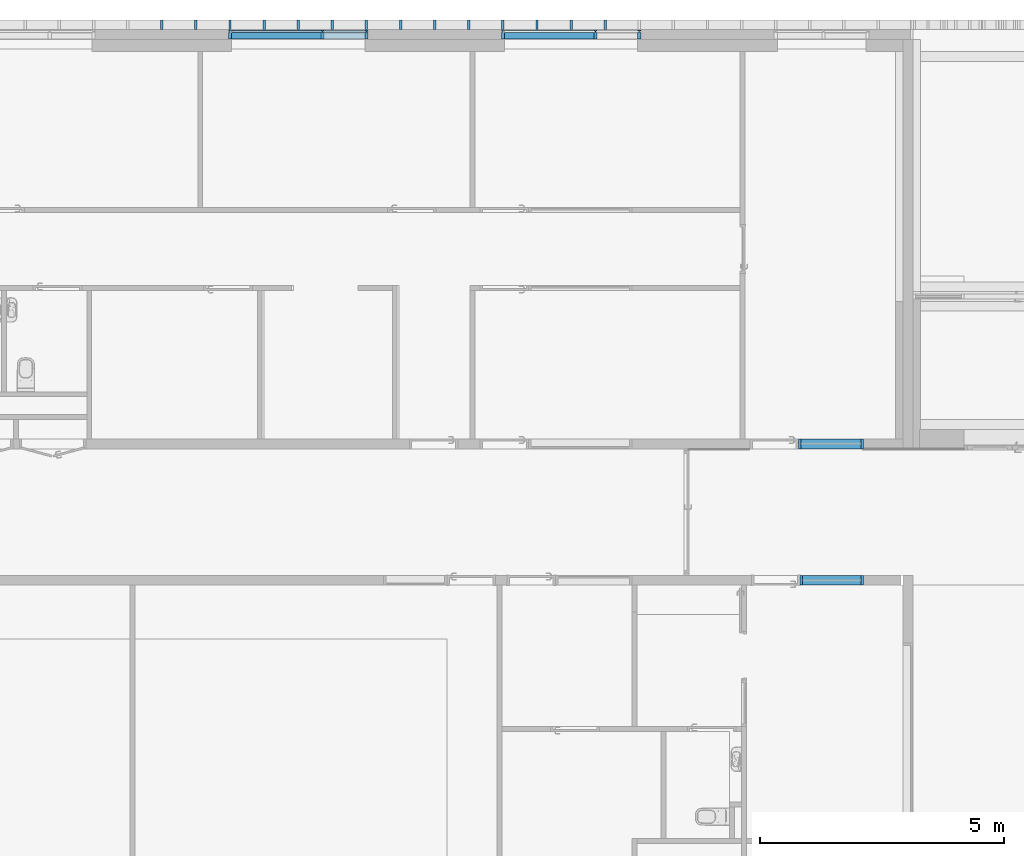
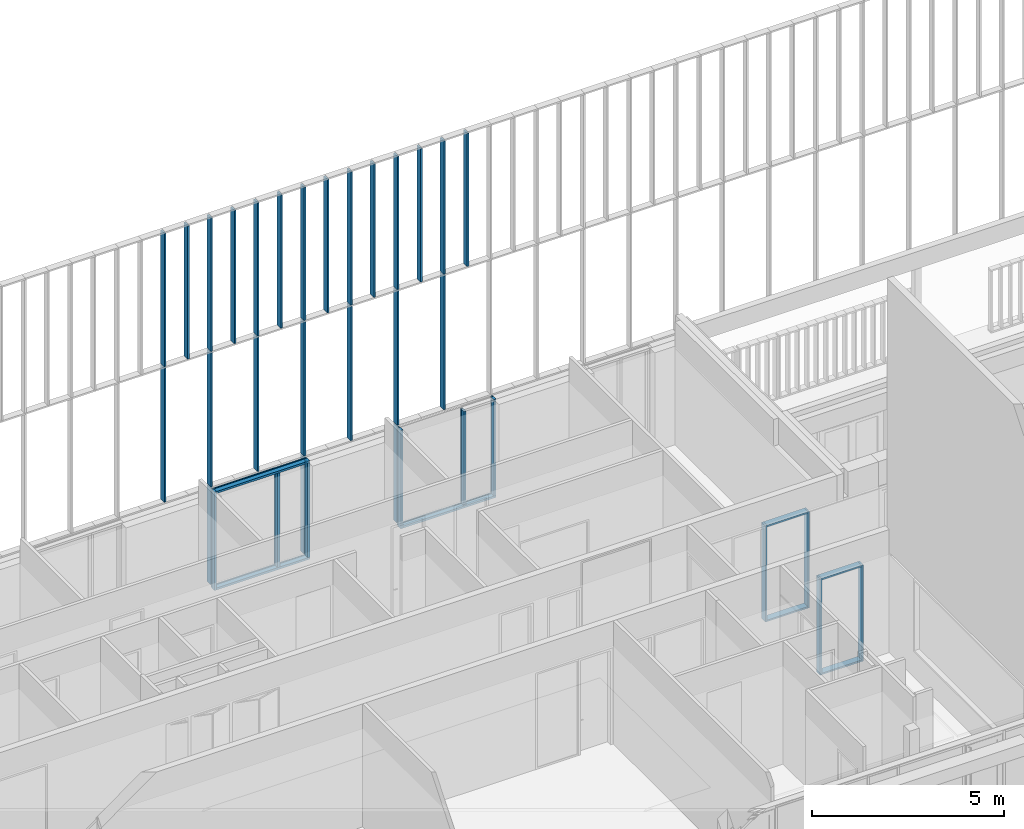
# One storey, part 21 of 240: 43 members, 5 elements without a shape of their own.
"""IFC2X3 building model written with IfcOpenShell, lengths in centimetres."""

from ifc_helpers import new_model, entity, si_unit, converted_unit, derived_unit, direction, frame, origin, origin_2d_with_axis, place, context, subcontext, project, spatial, polyline, rectangle, outline, extrude, source, transform, mapped, material, type_object, type_shapes, element, aggregate, save


model = new_model("IFC2X3")

# Units and contexts
model_context = context("Model", 3, precision=0.001, world=origin(), true_north=direction((6.12303176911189e-17, 1.0)))
body_context = subcontext(model_context, "Body", "Model", "MODEL_VIEW")
ifc_project = project(units=[si_unit("LENGTHUNIT", "METRE", prefix="CENTI"), si_unit("AREAUNIT", "SQUARE_METRE"), si_unit("VOLUMEUNIT", "CUBIC_METRE"), converted_unit("PLANEANGLEUNIT", "DEGREE", entity("IfcRatioMeasure", 0.0174532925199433), si_unit("PLANEANGLEUNIT", "RADIAN"), dimensions=[0, 0, 0, 0, 0, 0, 0]), si_unit("MASSUNIT", "GRAM", prefix="KILO"), derived_unit("MASSDENSITYUNIT", [(si_unit("MASSUNIT", "GRAM", prefix="KILO"), 1), (si_unit("LENGTHUNIT", "METRE"), -3)]), si_unit("TIMEUNIT", "SECOND"), si_unit("FREQUENCYUNIT", "HERTZ"), si_unit("THERMODYNAMICTEMPERATUREUNIT", "DEGREE_CELSIUS"), derived_unit("THERMALTRANSMITTANCEUNIT", [(si_unit("MASSUNIT", "GRAM", prefix="KILO"), 1), (si_unit("THERMODYNAMICTEMPERATUREUNIT", "KELVIN"), -1), (si_unit("TIMEUNIT", "SECOND"), -3)]), derived_unit("VOLUMETRICFLOWRATEUNIT", [(si_unit("LENGTHUNIT", "METRE"), 3), (si_unit("TIMEUNIT", "SECOND"), -1)]), si_unit("ELECTRICCURRENTUNIT", "AMPERE"), si_unit("ELECTRICVOLTAGEUNIT", "VOLT"), si_unit("POWERUNIT", "WATT"), si_unit("FORCEUNIT", "NEWTON", prefix="KILO"), si_unit("ILLUMINANCEUNIT", "LUX"), si_unit("LUMINOUSFLUXUNIT", "LUMEN"), si_unit("LUMINOUSINTENSITYUNIT", "CANDELA"), derived_unit("USERDEFINED", [(si_unit("MASSUNIT", "GRAM", prefix="KILO"), -1), (si_unit("LENGTHUNIT", "METRE"), -2), (si_unit("TIMEUNIT", "SECOND"), 3), (si_unit("LUMINOUSFLUXUNIT", "LUMEN"), 1)]), derived_unit("LINEARVELOCITYUNIT", [(si_unit("LENGTHUNIT", "METRE"), 1), (si_unit("TIMEUNIT", "SECOND"), -1)]), si_unit("PRESSUREUNIT", "PASCAL"), derived_unit("USERDEFINED", [(si_unit("LENGTHUNIT", "METRE"), -2), (si_unit("MASSUNIT", "GRAM", prefix="KILO"), 1), (si_unit("TIMEUNIT", "SECOND"), -2)])], contexts=[model_context])

# Site, building, storey
site_placement = place(None, frame((-2781.94577612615, 7442.24238424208, 0.0)))
site = spatial("IfcSite", under=ifc_project, at=site_placement, Name="Default", CompositionType="ELEMENT")
building_placement = place(site_placement, origin())
building = spatial("IfcBuilding", under=site, at=building_placement, CompositionType="ELEMENT")
storey_placement = place(building_placement, origin())
storey = spatial("IfcBuildingStorey", under=building, at=storey_placement, Name="N00 - COO", CompositionType="ELEMENT", Elevation=0.0)

# Curtain wall, member
curtain_wall_type_1 = type_object("IfcCurtainWallType", Name="Mur-rideau:07 - mur rideau trame 280 cm", PredefinedType="NOTDEFINED")
curtain_wall_1_placement = place(building_placement, origin())
curtain_wall_1 = element("IfcCurtainWall", 1, at=curtain_wall_1_placement, inside=storey, type_object=curtain_wall_type_1, Name="Mur-rideau:07 - mur rideau trame 280 cm", ObjectType="Mur-rideau:07 - mur rideau trame 280 cm")
ifc_material = material(Name="Aluminium")
member_type_1 = type_object("IfcMemberType", Name="150 x 25mm Détails", PredefinedType="MEMBER")
shared_shape_1 = source(origin(), body_context, "Body", "SweptSolid", [
    extrude(outline(polyline([(-5.66666666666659, -3.25), (-3.66666666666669, -3.25), (-3.66666666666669, -0.868749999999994), (-0.166666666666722, -0.868749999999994), (-0.166666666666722, -3.25000000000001), (13.3333333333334, -3.24999999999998), (13.3333333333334, 3.25000000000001), (-0.166666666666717, 3.25000000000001), (-0.166666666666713, 0.868749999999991), (-3.66666666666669, 0.868749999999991), (-3.66666666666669, 3.24999999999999), (-5.66666666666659, 3.24999999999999), (-5.66666666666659, -3.25)])), frame((-3.24999999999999, -1.96666666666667, -280.0), z_axis=(0.0, 0.0, 1.0), x_axis=(0.0, -1.0, 0.0)), (0.0, 0.0, 1.0), 280.00000003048),
])
type_shapes(member_type_1, [shared_shape_1])
member_1_placement = place(building_placement, frame((-5326.24987760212, 26.2000000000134, 0.0), z_axis=(1.0, 0.0, 0.0), x_axis=(0.0, 0.0, -1.0)))
member_1 = element("IfcMember", 2, at=member_1_placement, type_object=member_type_1, material=ifc_material, Name="Meneau rectangulaire:150 x 25mm Détails", ObjectType="Meneau rectangulaire:150 x 25mm Détails", context=body_context, shape_type="MappedRepresentation", body=[
    mapped(shared_shape_1, transform((0.0, 0.0, 0.0), scale=1.0)),
])

curtain_wall_2_placement = place(building_placement, origin())
curtain_wall_2 = element("IfcCurtainWall", 3, at=curtain_wall_2_placement, inside=storey, type_object=curtain_wall_type_1, Name="Mur-rideau:07 - mur rideau trame 280 cm", ObjectType="Mur-rideau:07 - mur rideau trame 280 cm")
member_2_placement = place(building_placement, frame((-5886.24987760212, 26.2000000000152, 0.0), z_axis=(1.0, 0.0, 0.0), x_axis=(0.0, 0.0, -1.0)))
member_2 = element("IfcMember", 4, at=member_2_placement, type_object=member_type_1, material=ifc_material, Name="Meneau rectangulaire:150 x 25mm Détails", ObjectType="Meneau rectangulaire:150 x 25mm Détails", context=body_context, shape_type="MappedRepresentation", body=[
    mapped(shared_shape_1, transform((0.0, 0.0, 0.0), scale=1.0)),
])

# Member
member_type_2 = type_object("IfcMemberType", Name="150 x 25mm Détails", PredefinedType="MEMBER")
shared_shape_2 = source(origin(), body_context, "Body", "SweptSolid", [
    extrude(outline(polyline([(-5.66666666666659, -3.25), (-3.66666666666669, -3.25), (-3.66666666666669, -0.868749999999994), (-0.166666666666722, -0.868749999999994), (-0.166666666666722, -3.25000000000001), (13.3333333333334, -3.24999999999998), (13.3333333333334, 3.25000000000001), (-0.166666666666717, 3.25000000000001), (-0.166666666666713, 0.868749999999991), (-3.66666666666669, 0.868749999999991), (-3.66666666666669, 3.24999999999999), (-5.66666666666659, 3.24999999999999), (-5.66666666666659, -3.25)])), frame((-3.24999999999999, -1.96666666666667, -299.5), z_axis=(0.0, 0.0, 1.0), x_axis=(0.0, -1.0, 0.0)), (0.0, 0.0, 1.0), 299.5),
])
type_shapes(member_type_2, [shared_shape_2])
member_3_placement = place(building_placement, frame((-5416.24987760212, 26.2000000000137, 306.0)))
member_3 = element("IfcMember", 5, at=member_3_placement, type_object=member_type_2, material=ifc_material, Name="Meneau rectangulaire:150 x 25mm Détails", ObjectType="Meneau rectangulaire:150 x 25mm Détails", context=body_context, shape_type="MappedRepresentation", body=[
    mapped(shared_shape_2, transform((0.0, 0.0, 0.0), scale=1.0)),
])

member_4_placement = place(building_placement, frame((-5976.24987760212, 26.2000000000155, 306.0)))
member_4 = element("IfcMember", 6, at=member_4_placement, type_object=member_type_2, material=ifc_material, Name="Meneau rectangulaire:150 x 25mm Détails", ObjectType="Meneau rectangulaire:150 x 25mm Détails", context=body_context, shape_type="MappedRepresentation", body=[
    mapped(shared_shape_2, transform((0.0, 0.0, 0.0), scale=1.0)),
])

member_type_3 = type_object("IfcMemberType", Name="150 x 25mm Détails", PredefinedType="MEMBER")
shared_shape_3 = source(origin(), body_context, "Body", "SweptSolid", [
    extrude(outline(polyline([(-5.6666666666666, -3.24999999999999), (-3.66666666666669, -3.24999999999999), (-3.66666666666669, -0.868749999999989), (-0.166666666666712, -0.868749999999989), (-0.166666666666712, -3.25000000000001), (13.3333333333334, -3.25000000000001), (13.3333333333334, 3.24999999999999), (-0.16666666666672, 3.24999999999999), (-0.16666666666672, 0.868749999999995), (-3.66666666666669, 0.868749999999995), (-3.66666666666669, 3.25), (-5.6666666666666, 3.25), (-5.6666666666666, -3.24999999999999)])), frame((-3.24999999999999, -1.96666666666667, -299.5), z_axis=(0.0, 0.0, 1.0), x_axis=(0.0, -1.0, 0.0)), (0.0, 0.0, 1.0), 299.5),
])
type_shapes(member_type_3, [shared_shape_3])
member_5_placement = place(building_placement, frame((-5332.74987760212, 26.2000000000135, 6.49999999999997), z_axis=(0.0, 0.0, -1.0), x_axis=(-1.0, 0.0, 0.0)))
member_5 = element("IfcMember", 7, at=member_5_placement, type_object=member_type_3, material=ifc_material, Name="Meneau rectangulaire:150 x 25mm Détails", ObjectType="Meneau rectangulaire:150 x 25mm Détails", context=body_context, shape_type="MappedRepresentation", body=[
    mapped(shared_shape_3, transform((0.0, 0.0, 0.0), scale=1.0)),
])

member_6_placement = place(building_placement, frame((-5892.74987760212, 26.2000000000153, 6.5), z_axis=(0.0, 0.0, -1.0), x_axis=(-1.0, 0.0, 0.0)))
member_6 = element("IfcMember", 8, at=member_6_placement, type_object=member_type_3, material=ifc_material, Name="Meneau rectangulaire:150 x 25mm Détails", ObjectType="Meneau rectangulaire:150 x 25mm Détails", context=body_context, shape_type="MappedRepresentation", body=[
    mapped(shared_shape_3, transform((0.0, 0.0, 0.0), scale=1.0)),
])

member_type_4 = type_object("IfcMemberType", Name="150 x 25mm Détails", PredefinedType="MEMBER")
shared_shape_4 = source(origin(), body_context, "Body", "SweptSolid", [
    extrude(outline(polyline([(-5.6666666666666, -3.24999999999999), (-3.66666666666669, -3.24999999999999), (-3.66666666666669, -0.868749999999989), (-0.166666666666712, -0.868749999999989), (-0.166666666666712, -3.25000000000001), (13.3333333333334, -3.25000000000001), (13.3333333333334, 3.24999999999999), (-0.16666666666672, 3.24999999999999), (-0.16666666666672, 0.868749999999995), (-3.66666666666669, 0.868749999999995), (-3.66666666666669, 3.25), (-5.6666666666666, 3.25), (-5.6666666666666, -3.24999999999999)])), frame((-3.24999999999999, -1.96666666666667, -280.0), z_axis=(0.0, 0.0, 1.0), x_axis=(0.0, -1.0, 0.0)), (0.0, 0.0, 1.0), 280.000000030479),
])
type_shapes(member_type_4, [shared_shape_4])
member_7_placement = place(building_placement, frame((-6166.2498776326, 26.2000000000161, 313.0), z_axis=(-1.0, 0.0, 0.0), x_axis=(0.0, 0.0, 1.0)))
member_7 = element("IfcMember", 9, at=member_7_placement, type_object=member_type_4, material=ifc_material, Name="Meneau rectangulaire:150 x 25mm Détails", ObjectType="Meneau rectangulaire:150 x 25mm Détails", context=body_context, shape_type="MappedRepresentation", body=[
    mapped(shared_shape_4, transform((0.0, 0.0, 0.0), scale=1.0)),
])

member_type_5 = type_object("IfcMemberType", Name="150 x 25mm Détails", PredefinedType="MEMBER")
shared_shape_5 = source(origin(), body_context, "Body", "SweptSolid", [
    extrude(outline(polyline([(-5.6666666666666, -3.24999999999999), (-3.66666666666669, -3.24999999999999), (-3.66666666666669, -0.868749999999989), (-0.166666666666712, -0.868749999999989), (-0.166666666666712, -3.25000000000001), (13.3333333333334, -3.25000000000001), (13.3333333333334, 3.24999999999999), (-0.16666666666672, 3.24999999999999), (-0.16666666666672, 0.868749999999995), (-3.66666666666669, 0.868749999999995), (-3.66666666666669, 3.25), (-5.6666666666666, 3.25), (-5.6666666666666, -3.24999999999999)])), frame((-3.24999999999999, -1.96666666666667, -313.0), z_axis=(0.0, 0.0, 1.0), x_axis=(0.0, -1.0, 0.0)), (0.0, 0.0, 1.0), 313.0),
])
type_shapes(member_type_5, [shared_shape_5])
member_8_placement = place(building_placement, frame((-5612.74987760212, 26.2000000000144, 0.0), z_axis=(0.0, 0.0, -1.0), x_axis=(-1.0, 0.0, 0.0)))
member_8 = element("IfcMember", 10, at=member_8_placement, type_object=member_type_5, material=ifc_material, Name="Meneau rectangulaire:150 x 25mm Détails", ObjectType="Meneau rectangulaire:150 x 25mm Détails", context=body_context, shape_type="MappedRepresentation", body=[
    mapped(shared_shape_5, transform((0.0, 0.0, 0.0), scale=1.0)),
])

member_9_placement = place(building_placement, frame((-6172.74987760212, 26.2000000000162, 0.0), z_axis=(0.0, 0.0, -1.0), x_axis=(-1.0, 0.0, 0.0)))
member_9 = element("IfcMember", 11, at=member_9_placement, type_object=member_type_5, material=ifc_material, Name="Meneau rectangulaire:150 x 25mm Détails", ObjectType="Meneau rectangulaire:150 x 25mm Détails", context=body_context, shape_type="MappedRepresentation", body=[
    mapped(shared_shape_5, transform((0.0, 0.0, 0.0), scale=1.0)),
])

member_type_6 = type_object("IfcMemberType", Name="150 x 25mm Détails", PredefinedType="MEMBER")
shared_shape_6 = source(origin(), body_context, "Body", "SweptSolid", [
    extrude(outline(polyline([(-5.6666666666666, -3.25), (-3.66666666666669, -3.25), (-3.66666666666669, -0.868749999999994), (-0.166666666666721, -0.868749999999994), (-0.166666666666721, -3.25000000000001), (13.3333333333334, -3.24999999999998), (13.3333333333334, 3.25000000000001), (-0.166666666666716, 3.25000000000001), (-0.166666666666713, 0.868749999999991), (-3.66666666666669, 0.868749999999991), (-3.66666666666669, 3.24999999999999), (-5.6666666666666, 3.24999999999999), (-5.6666666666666, -3.25)])), frame((-3.24999999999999, -1.96666666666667, -306.5), z_axis=(0.0, 0.0, 1.0), x_axis=(0.0, -1.0, 0.0)), (0.0, 0.0, 1.0), 306.5),
])
type_shapes(member_type_6, [shared_shape_6])
member_10_placement = place(building_placement, frame((-5326.24987760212, 26.2000000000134, 313.0)))
member_10 = element("IfcMember", 12, at=member_10_placement, type_object=member_type_6, material=ifc_material, Name="Meneau rectangulaire:150 x 25mm Détails", ObjectType="Meneau rectangulaire:150 x 25mm Détails", context=body_context, shape_type="MappedRepresentation", body=[
    mapped(shared_shape_6, transform((0.0, 0.0, 0.0), scale=1.0)),
])

aggregate(curtain_wall_1, [member_8, member_10, member_3, member_5, member_1])

member_type_7 = type_object("IfcMemberType", Name="150 x 25mm Détails", PredefinedType="MEMBER")
shared_shape_7 = source(origin(), body_context, "Body", "SweptSolid", [
    extrude(outline(polyline([(-5.66666666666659, -3.25), (-3.66666666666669, -3.25), (-3.66666666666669, -0.868749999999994), (-0.166666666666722, -0.868749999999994), (-0.166666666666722, -3.25000000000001), (13.3333333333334, -3.24999999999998), (13.3333333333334, 3.25000000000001), (-0.166666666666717, 3.25000000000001), (-0.166666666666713, 0.868749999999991), (-3.66666666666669, 0.868749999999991), (-3.66666666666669, 3.24999999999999), (-5.66666666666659, 3.24999999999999), (-5.66666666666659, -3.25)])), frame((-3.24999999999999, -1.96666666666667, -300.0), z_axis=(0.0, 0.0, 1.0), x_axis=(0.0, -1.0, 0.0)), (0.0, 0.0, 1.0), 300.0),
])
type_shapes(member_type_7, [shared_shape_7])
member_11_placement = place(building_placement, frame((-5886.24987760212, 26.2000000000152, 306.5)))
member_11 = element("IfcMember", 13, at=member_11_placement, type_object=member_type_7, material=ifc_material, Name="Meneau rectangulaire:150 x 25mm Détails", ObjectType="Meneau rectangulaire:150 x 25mm Détails", context=body_context, shape_type="MappedRepresentation", body=[
    mapped(shared_shape_7, transform((0.0, 0.0, 0.0), scale=1.0)),
])

aggregate(curtain_wall_2, [member_2, member_9, member_11, member_4, member_6, member_7])

# Curtain wall, members
curtain_wall_type_2 = type_object("IfcCurtainWallType", Name="Mur-rideau:Epines - 200x50mm", PredefinedType="NOTDEFINED")
curtain_wall_3_placement = place(building_placement, origin())
curtain_wall_3 = element("IfcCurtainWall", 14, at=curtain_wall_3_placement, inside=storey, type_object=curtain_wall_type_2, Name="Mur-rideau:Epines - 200x50mm", ObjectType="Mur-rideau:Epines - 200x50mm")
member_type_8 = type_object("IfcMemberType", Name="200x50 mm", PredefinedType="MEMBER")
shared_shape_8 = source(origin(), body_context, "Body", "SweptSolid", [
    extrude(rectangle(XDim=20.0, YDim=5.0, at=origin_2d_with_axis()), frame((0.0, 0.0, -423.0), z_axis=(0.0, 0.0, 1.0), x_axis=(0.0, -1.0, 0.0)), (0.0, 0.0, 1.0), 423.000000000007),
])
type_shapes(member_type_8, [shared_shape_8])
member_12_placement = place(building_placement, frame((-5609.49987760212, 40.0, 748.0), z_axis=(0.0, 0.0, -1.0), x_axis=(1.0, 0.0, 0.0)))
member_12 = element("IfcMember", 15, at=member_12_placement, type_object=member_type_8, material=ifc_material, Name="Meneau rectangulaire:200x50 mm", ObjectType="Meneau rectangulaire:200x50 mm", context=body_context, shape_type="MappedRepresentation", body=[
    mapped(shared_shape_8, transform((0.0, 0.0, 0.0), scale=1.0)),
])
member_13_placement = place(building_placement, frame((-5889.49987760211, 40.0, 748.0), z_axis=(0.0, 0.0, -1.0), x_axis=(1.0, 0.0, 0.0)))
member_13 = element("IfcMember", 16, at=member_13_placement, type_object=member_type_8, material=ifc_material, Name="Meneau rectangulaire:200x50 mm", ObjectType="Meneau rectangulaire:200x50 mm", context=body_context, shape_type="MappedRepresentation", body=[
    mapped(shared_shape_8, transform((0.0, 0.0, 0.0), scale=1.0)),
])
member_14_placement = place(building_placement, frame((-6169.49987760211, 40.0, 748.0), z_axis=(0.0, 0.0, -1.0), x_axis=(1.0, 0.0, 0.0)))
member_14 = element("IfcMember", 17, at=member_14_placement, type_object=member_type_8, material=ifc_material, Name="Meneau rectangulaire:200x50 mm", ObjectType="Meneau rectangulaire:200x50 mm", context=body_context, shape_type="MappedRepresentation", body=[
    mapped(shared_shape_8, transform((0.0, 0.0, 0.0), scale=1.0)),
])
member_15_placement = place(building_placement, frame((-5469.49987760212, 40.0, 748.0), z_axis=(0.0, 0.0, -1.0), x_axis=(1.0, 0.0, 0.0)))
member_15 = element("IfcMember", 18, at=member_15_placement, type_object=member_type_8, material=ifc_material, Name="Meneau rectangulaire:200x50 mm", ObjectType="Meneau rectangulaire:200x50 mm", context=body_context, shape_type="MappedRepresentation", body=[
    mapped(shared_shape_8, transform((0.0, 0.0, 0.0), scale=1.0)),
])
member_16_placement = place(building_placement, frame((-5749.49987760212, 40.0, 748.0), z_axis=(0.0, 0.0, -1.0), x_axis=(1.0, 0.0, 0.0)))
member_16 = element("IfcMember", 19, at=member_16_placement, type_object=member_type_8, material=ifc_material, Name="Meneau rectangulaire:200x50 mm", ObjectType="Meneau rectangulaire:200x50 mm", context=body_context, shape_type="MappedRepresentation", body=[
    mapped(shared_shape_8, transform((0.0, 0.0, 0.0), scale=1.0)),
])
member_17_placement = place(building_placement, frame((-6029.49987760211, 40.0, 748.0), z_axis=(0.0, 0.0, -1.0), x_axis=(1.0, 0.0, 0.0)))
member_17 = element("IfcMember", 20, at=member_17_placement, type_object=member_type_8, material=ifc_material, Name="Meneau rectangulaire:200x50 mm", ObjectType="Meneau rectangulaire:200x50 mm", context=body_context, shape_type="MappedRepresentation", body=[
    mapped(shared_shape_8, transform((0.0, 0.0, 0.0), scale=1.0)),
])
member_18_placement = place(building_placement, frame((-5399.49987760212, 40.0, 748.0), z_axis=(0.0, 0.0, -1.0), x_axis=(1.0, 0.0, 0.0)))
member_18 = element("IfcMember", 21, at=member_18_placement, type_object=member_type_8, material=ifc_material, Name="Meneau rectangulaire:200x50 mm", ObjectType="Meneau rectangulaire:200x50 mm", context=body_context, shape_type="MappedRepresentation", body=[
    mapped(shared_shape_8, transform((0.0, 0.0, 0.0), scale=1.0)),
])
member_19_placement = place(building_placement, frame((-5539.49987760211, 40.0, 748.0), z_axis=(0.0, 0.0, -1.0), x_axis=(1.0, 0.0, 0.0)))
member_19 = element("IfcMember", 22, at=member_19_placement, type_object=member_type_8, material=ifc_material, Name="Meneau rectangulaire:200x50 mm", ObjectType="Meneau rectangulaire:200x50 mm", context=body_context, shape_type="MappedRepresentation", body=[
    mapped(shared_shape_8, transform((0.0, 0.0, 0.0), scale=1.0)),
])
member_20_placement = place(building_placement, frame((-5679.49987760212, 40.0, 748.0), z_axis=(0.0, 0.0, -1.0), x_axis=(1.0, 0.0, 0.0)))
member_20 = element("IfcMember", 23, at=member_20_placement, type_object=member_type_8, material=ifc_material, Name="Meneau rectangulaire:200x50 mm", ObjectType="Meneau rectangulaire:200x50 mm", context=body_context, shape_type="MappedRepresentation", body=[
    mapped(shared_shape_8, transform((0.0, 0.0, 0.0), scale=1.0)),
])
member_21_placement = place(building_placement, frame((-5819.49987760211, 40.0, 748.0), z_axis=(0.0, 0.0, -1.0), x_axis=(1.0, 0.0, 0.0)))
member_21 = element("IfcMember", 24, at=member_21_placement, type_object=member_type_8, material=ifc_material, Name="Meneau rectangulaire:200x50 mm", ObjectType="Meneau rectangulaire:200x50 mm", context=body_context, shape_type="MappedRepresentation", body=[
    mapped(shared_shape_8, transform((0.0, 0.0, 0.0), scale=1.0)),
])
member_22_placement = place(building_placement, frame((-5959.49987760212, 40.0, 748.0), z_axis=(0.0, 0.0, -1.0), x_axis=(1.0, 0.0, 0.0)))
member_22 = element("IfcMember", 25, at=member_22_placement, type_object=member_type_8, material=ifc_material, Name="Meneau rectangulaire:200x50 mm", ObjectType="Meneau rectangulaire:200x50 mm", context=body_context, shape_type="MappedRepresentation", body=[
    mapped(shared_shape_8, transform((0.0, 0.0, 0.0), scale=1.0)),
])
member_23_placement = place(building_placement, frame((-6099.49987760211, 40.0, 748.0), z_axis=(0.0, 0.0, -1.0), x_axis=(1.0, 0.0, 0.0)))
member_23 = element("IfcMember", 26, at=member_23_placement, type_object=member_type_8, material=ifc_material, Name="Meneau rectangulaire:200x50 mm", ObjectType="Meneau rectangulaire:200x50 mm", context=body_context, shape_type="MappedRepresentation", body=[
    mapped(shared_shape_8, transform((0.0, 0.0, 0.0), scale=1.0)),
])
member_24_placement = place(building_placement, frame((-6309.49987760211, 40.0, 748.0), z_axis=(0.0, 0.0, -1.0), x_axis=(1.0, 0.0, 0.0)))
member_24 = element("IfcMember", 27, at=member_24_placement, type_object=member_type_8, material=ifc_material, Name="Meneau rectangulaire:200x50 mm", ObjectType="Meneau rectangulaire:200x50 mm", context=body_context, shape_type="MappedRepresentation", body=[
    mapped(shared_shape_8, transform((0.0, 0.0, 0.0), scale=1.0)),
])
member_25_placement = place(building_placement, frame((-6239.49987760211, 40.0, 748.0), z_axis=(0.0, 0.0, -1.0), x_axis=(1.0, 0.0, 0.0)))
member_25 = element("IfcMember", 28, at=member_25_placement, type_object=member_type_8, material=ifc_material, Name="Meneau rectangulaire:200x50 mm", ObjectType="Meneau rectangulaire:200x50 mm", context=body_context, shape_type="MappedRepresentation", body=[
    mapped(shared_shape_8, transform((0.0, 0.0, 0.0), scale=1.0)),
])
member_type_9 = type_object("IfcMemberType", Name="200x50 mm", PredefinedType="MEMBER")
shared_shape_9 = source(origin(), body_context, "Body", "SweptSolid", [
    extrude(rectangle(XDim=20.0, YDim=5.0, at=origin_2d_with_axis()), frame((0.0, 0.0, -425.5), z_axis=(0.0, 0.0, 1.0), x_axis=(0.0, -1.0, 0.0)), (0.0, 0.0, 1.0), 425.5),
])
type_shapes(member_type_9, [shared_shape_9])
member_26_placement = place(building_placement, frame((-5609.49987760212, 40.0, 317.5), z_axis=(0.0, 0.0, -1.0), x_axis=(1.0, 0.0, 0.0)))
member_26 = element("IfcMember", 29, at=member_26_placement, type_object=member_type_9, material=ifc_material, Name="Meneau rectangulaire:200x50 mm", ObjectType="Meneau rectangulaire:200x50 mm", context=body_context, shape_type="MappedRepresentation", body=[
    mapped(shared_shape_9, transform((0.0, 0.0, 0.0), scale=1.0)),
])
member_27_placement = place(building_placement, frame((-5889.49987760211, 40.0, 317.5), z_axis=(0.0, 0.0, -1.0), x_axis=(1.0, 0.0, 0.0)))
member_27 = element("IfcMember", 30, at=member_27_placement, type_object=member_type_9, material=ifc_material, Name="Meneau rectangulaire:200x50 mm", ObjectType="Meneau rectangulaire:200x50 mm", context=body_context, shape_type="MappedRepresentation", body=[
    mapped(shared_shape_9, transform((0.0, 0.0, 0.0), scale=1.0)),
])
member_28_placement = place(building_placement, frame((-6169.49987760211, 40.0, 317.5), z_axis=(0.0, 0.0, -1.0), x_axis=(1.0, 0.0, 0.0)))
member_28 = element("IfcMember", 31, at=member_28_placement, type_object=member_type_9, material=ifc_material, Name="Meneau rectangulaire:200x50 mm", ObjectType="Meneau rectangulaire:200x50 mm", context=body_context, shape_type="MappedRepresentation", body=[
    mapped(shared_shape_9, transform((0.0, 0.0, 0.0), scale=1.0)),
])
member_29_placement = place(building_placement, frame((-5469.49987760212, 40.0, 317.5), z_axis=(0.0, 0.0, -1.0), x_axis=(1.0, 0.0, 0.0)))
member_29 = element("IfcMember", 32, at=member_29_placement, type_object=member_type_9, material=ifc_material, Name="Meneau rectangulaire:200x50 mm", ObjectType="Meneau rectangulaire:200x50 mm", context=body_context, shape_type="MappedRepresentation", body=[
    mapped(shared_shape_9, transform((0.0, 0.0, 0.0), scale=1.0)),
])
member_30_placement = place(building_placement, frame((-5749.49987760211, 40.0, 317.5), z_axis=(0.0, 0.0, -1.0), x_axis=(1.0, 0.0, 0.0)))
member_30 = element("IfcMember", 33, at=member_30_placement, type_object=member_type_9, material=ifc_material, Name="Meneau rectangulaire:200x50 mm", ObjectType="Meneau rectangulaire:200x50 mm", context=body_context, shape_type="MappedRepresentation", body=[
    mapped(shared_shape_9, transform((0.0, 0.0, 0.0), scale=1.0)),
])
member_31_placement = place(building_placement, frame((-6029.49987760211, 40.0, 317.5), z_axis=(0.0, 0.0, -1.0), x_axis=(1.0, 0.0, 0.0)))
member_31 = element("IfcMember", 34, at=member_31_placement, type_object=member_type_9, material=ifc_material, Name="Meneau rectangulaire:200x50 mm", ObjectType="Meneau rectangulaire:200x50 mm", context=body_context, shape_type="MappedRepresentation", body=[
    mapped(shared_shape_9, transform((0.0, 0.0, 0.0), scale=1.0)),
])
member_32_placement = place(building_placement, frame((-6309.49987760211, 40.0, 317.5), z_axis=(0.0, 0.0, -1.0), x_axis=(1.0, 0.0, 0.0)))
member_32 = element("IfcMember", 35, at=member_32_placement, type_object=member_type_9, material=ifc_material, Name="Meneau rectangulaire:200x50 mm", ObjectType="Meneau rectangulaire:200x50 mm", context=body_context, shape_type="MappedRepresentation", body=[
    mapped(shared_shape_9, transform((0.0, 0.0, 0.0), scale=1.0)),
])
member_type_10 = type_object("IfcMemberType", Name="200x50 mm", PredefinedType="MEMBER")
shared_shape_10 = source(origin(), body_context, "Body", "SweptSolid", [
    extrude(rectangle(XDim=20.0, YDim=5.0, at=origin_2d_with_axis()), frame((0.0, 0.0, -307.5), z_axis=(0.0, 0.0, 1.0), x_axis=(0.0, -1.0, 0.0)), (0.0, 0.0, 1.0), 307.5),
])
type_shapes(member_type_10, [shared_shape_10])
member_33_placement = place(building_placement, frame((-5609.49987760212, 40.0, 5.0), z_axis=(0.0, 0.0, -1.0), x_axis=(1.0, 0.0, 0.0)))
member_33 = element("IfcMember", 36, at=member_33_placement, type_object=member_type_10, material=ifc_material, Name="Meneau rectangulaire:200x50 mm", ObjectType="Meneau rectangulaire:200x50 mm", context=body_context, shape_type="MappedRepresentation", body=[
    mapped(shared_shape_10, transform((0.0, 0.0, 0.0), scale=1.0)),
])
member_34_placement = place(building_placement, frame((-5889.49987760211, 40.0, 5.0), z_axis=(0.0, 0.0, -1.0), x_axis=(1.0, 0.0, 0.0)))
member_34 = element("IfcMember", 37, at=member_34_placement, type_object=member_type_10, material=ifc_material, Name="Meneau rectangulaire:200x50 mm", ObjectType="Meneau rectangulaire:200x50 mm", context=body_context, shape_type="MappedRepresentation", body=[
    mapped(shared_shape_10, transform((0.0, 0.0, 0.0), scale=1.0)),
])
member_35_placement = place(building_placement, frame((-6169.49987760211, 40.0, 5.0), z_axis=(0.0, 0.0, -1.0), x_axis=(1.0, 0.0, 0.0)))
member_35 = element("IfcMember", 38, at=member_35_placement, type_object=member_type_10, material=ifc_material, Name="Meneau rectangulaire:200x50 mm", ObjectType="Meneau rectangulaire:200x50 mm", context=body_context, shape_type="MappedRepresentation", body=[
    mapped(shared_shape_10, transform((0.0, 0.0, 0.0), scale=1.0)),
])
aggregate(curtain_wall_3, [member_12, member_26, member_33, member_13, member_27, member_34, member_14, member_28, member_35, member_15, member_29, member_16, member_30, member_17, member_31, member_18, member_19, member_20, member_21, member_22, member_23, member_32, member_24, member_25])

curtain_wall_type_3 = type_object("IfcCurtainWallType", PredefinedType="NOTDEFINED")
curtain_wall_4_placement = place(building_placement, origin())
curtain_wall_4 = element("IfcCurtainWall", 39, at=curtain_wall_4_placement, inside=storey, type_object=curtain_wall_type_3)
member_type_11 = type_object("IfcMemberType", Name="Epine nord (200x50 mm)", PredefinedType="MEMBER")
shared_shape_11 = source(origin(), body_context, "Body", "SweptSolid", [
    extrude(rectangle(XDim=20.0, YDim=5.0, at=origin_2d_with_axis()), frame((-2.5, 0.0, -120.0), z_axis=(0.0, 0.0, 1.0), x_axis=(0.0, -1.0, 0.0)), (0.0, 0.0, 1.0), 120.0),
])
type_shapes(member_type_11, [shared_shape_11])
member_36_placement = place(building_placement, frame((-4874.49987760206, -1100.0, 306.0), z_axis=(1.0, 0.0, 0.0), x_axis=(0.0, 0.0, 1.0)))
member_36 = element("IfcMember", 40, at=member_36_placement, type_object=member_type_11, material=ifc_material, Name="Meneau rectangulaire:Epine nord (200x50 mm)", ObjectType="Meneau rectangulaire:Epine nord (200x50 mm)", context=body_context, shape_type="MappedRepresentation", body=[
    mapped(shared_shape_11, transform((0.0, 0.0, 0.0), scale=1.0)),
])
member_type_12 = type_object("IfcMemberType", Name="Epine nord (200x50 mm)", PredefinedType="MEMBER")
shared_shape_12 = source(origin(), body_context, "Body", "SweptSolid", [
    extrude(rectangle(XDim=20.0, YDim=5.0, at=origin_2d_with_axis()), frame((-2.5, 0.0, -306.0), z_axis=(0.0, 0.0, 1.0), x_axis=(0.0, -1.0, 0.0)), (0.0, 0.0, 1.0), 306.0),
])
type_shapes(member_type_12, [shared_shape_12])
member_37_placement = place(building_placement, frame((-4869.49987760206, -1100.0, 0.0), z_axis=(0.0, 0.0, -1.0), x_axis=(1.0, 0.0, 0.0)))
member_37 = element("IfcMember", 41, at=member_37_placement, type_object=member_type_12, material=ifc_material, Name="Meneau rectangulaire:Epine nord (200x50 mm)", ObjectType="Meneau rectangulaire:Epine nord (200x50 mm)", context=body_context, shape_type="MappedRepresentation", body=[
    mapped(shared_shape_12, transform((0.0, 0.0, 0.0), scale=1.0)),
])

# Curtain wall, member
curtain_wall_5_placement = place(storey_placement, origin())
curtain_wall_5 = element("IfcCurtainWall", 42, at=curtain_wall_5_placement, inside=storey, type_object=curtain_wall_type_3)
member_38_placement = place(storey_placement, frame((-4869.49987760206, -820.048500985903, 0.0), z_axis=(0.0, 0.0, -1.0), x_axis=(1.0, 0.0, 0.0)))
member_38 = element("IfcMember", 43, at=member_38_placement, type_object=member_type_12, material=ifc_material, Name="Meneau rectangulaire:Epine nord (200x50 mm)", ObjectType="Meneau rectangulaire:Epine nord (200x50 mm)", context=body_context, shape_type="MappedRepresentation", body=[
    mapped(shared_shape_12, transform((0.0, 0.0, 0.0), scale=1.0)),
])

# Member
member_type_13 = type_object("IfcMemberType", Name="Epine nord (200x50 mm)", PredefinedType="MEMBER")
shared_shape_13 = source(origin(), body_context, "Body", "SweptSolid", [
    extrude(rectangle(XDim=20.0, YDim=5.0, at=origin_2d_with_axis()), frame((-2.5, 0.0, -306.0), z_axis=(0.0, 0.0, 1.0), x_axis=(0.0, -1.0, 0.0)), (0.0, 0.0, 1.0), 306.0),
])
type_shapes(member_type_13, [shared_shape_13])
member_39_placement = place(building_placement, frame((-4999.49987760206, -1100.0, 306.0), z_axis=(0.0, 0.0, 1.0), x_axis=(-1.0, 0.0, 0.0)))
member_39 = element("IfcMember", 44, at=member_39_placement, type_object=member_type_13, material=ifc_material, Name="Meneau rectangulaire:Epine nord (200x50 mm)", ObjectType="Meneau rectangulaire:Epine nord (200x50 mm)", context=body_context, shape_type="MappedRepresentation", body=[
    mapped(shared_shape_13, transform((0.0, 0.0, 0.0), scale=1.0)),
])

member_40_placement = place(storey_placement, frame((-5002.49987760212, -820.048500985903, 306.0), z_axis=(0.0, 0.0, 1.0), x_axis=(-1.0, 0.0, 0.0)))
member_40 = element("IfcMember", 45, at=member_40_placement, type_object=member_type_13, material=ifc_material, Name="Meneau rectangulaire:Epine nord (200x50 mm)", ObjectType="Meneau rectangulaire:Epine nord (200x50 mm)", context=body_context, shape_type="MappedRepresentation", body=[
    mapped(shared_shape_13, transform((0.0, 0.0, 0.0), scale=1.0)),
])

member_type_14 = type_object("IfcMemberType", Name="Epine nord (200x50 mm)", PredefinedType="MEMBER")
shared_shape_14 = source(origin(), body_context, "Body", "SweptSolid", [
    extrude(rectangle(XDim=20.0, YDim=5.0, at=origin_2d_with_axis()), frame((-2.5, 0.0, -120.0), z_axis=(0.0, 0.0, 1.0), x_axis=(0.0, -1.0, 0.0)), (0.0, 0.0, 1.0), 120.0),
])
type_shapes(member_type_14, [shared_shape_14])
member_41_placement = place(building_placement, frame((-4994.49987760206, -1100.0, 0.0), z_axis=(-1.0, 0.0, 0.0), x_axis=(0.0, 0.0, -1.0)))
member_41 = element("IfcMember", 46, at=member_41_placement, type_object=member_type_14, material=ifc_material, Name="Meneau rectangulaire:Epine nord (200x50 mm)", ObjectType="Meneau rectangulaire:Epine nord (200x50 mm)", context=body_context, shape_type="MappedRepresentation", body=[
    mapped(shared_shape_14, transform((0.0, 0.0, 0.0), scale=1.0)),
])

aggregate(curtain_wall_4, [member_36, member_37, member_39, member_41])

member_type_15 = type_object("IfcMemberType", Name="Epine nord (200x50 mm)", PredefinedType="MEMBER")
shared_shape_15 = source(origin(), body_context, "Body", "SweptSolid", [
    extrude(rectangle(XDim=20.0, YDim=5.0, at=origin_2d_with_axis()), frame((-2.5, 0.0, -123.0), z_axis=(0.0, 0.0, 1.0), x_axis=(0.0, -1.0, 0.0)), (0.0, 0.0, 1.0), 123.000000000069),
])
type_shapes(member_type_15, [shared_shape_15])
member_42_placement = place(storey_placement, frame((-4874.49987760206, -820.048500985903, 306.0), z_axis=(1.0, 0.0, 0.0), x_axis=(0.0, 0.0, 1.0)))
member_42 = element("IfcMember", 47, at=member_42_placement, type_object=member_type_15, material=ifc_material, Name="Meneau rectangulaire:Epine nord (200x50 mm)", ObjectType="Meneau rectangulaire:Epine nord (200x50 mm)", context=body_context, shape_type="MappedRepresentation", body=[
    mapped(shared_shape_15, transform((0.0, 0.0, 0.0), scale=1.0)),
])

member_type_16 = type_object("IfcMemberType", Name="Epine nord (200x50 mm)", PredefinedType="MEMBER")
shared_shape_16 = source(origin(), body_context, "Body", "SweptSolid", [
    extrude(rectangle(XDim=20.0, YDim=5.0, at=origin_2d_with_axis()), frame((-2.5, 0.0, -123.0), z_axis=(0.0, 0.0, 1.0), x_axis=(0.0, -1.0, 0.0)), (0.0, 0.0, 1.0), 123.000000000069),
])
type_shapes(member_type_16, [shared_shape_16])
member_43_placement = place(storey_placement, frame((-4997.49987760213, -820.048500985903, 0.0), z_axis=(-1.0, 0.0, 0.0), x_axis=(0.0, 0.0, -1.0)))
member_43 = element("IfcMember", 48, at=member_43_placement, type_object=member_type_16, material=ifc_material, Name="Meneau rectangulaire:Epine nord (200x50 mm)", ObjectType="Meneau rectangulaire:Epine nord (200x50 mm)", context=body_context, shape_type="MappedRepresentation", body=[
    mapped(shared_shape_16, transform((0.0, 0.0, 0.0), scale=1.0)),
])

aggregate(curtain_wall_5, [member_42, member_38, member_40, member_43])

save(model, "model.ifc")
